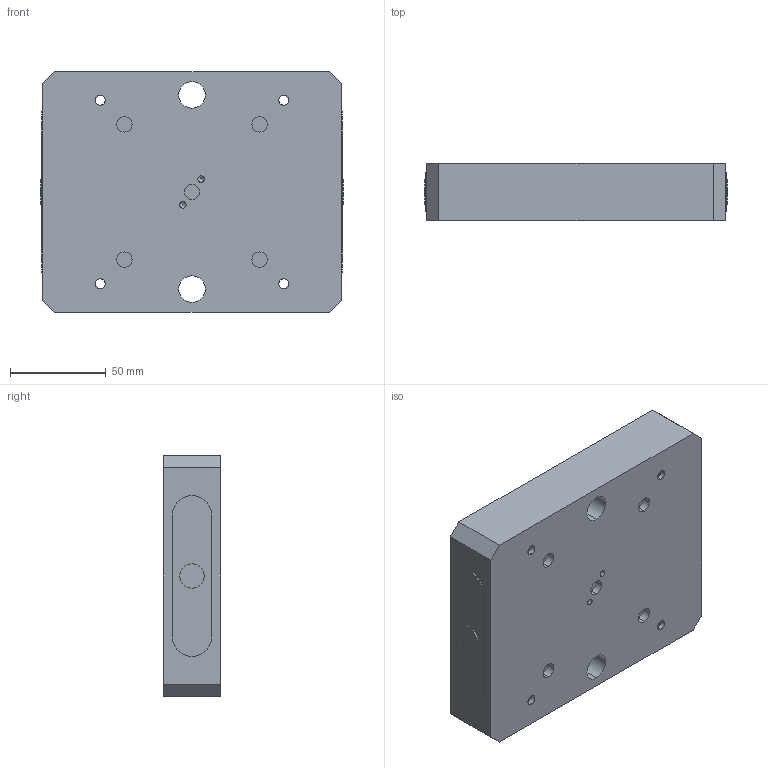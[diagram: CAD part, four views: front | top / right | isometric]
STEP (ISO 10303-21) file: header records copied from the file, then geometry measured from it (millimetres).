
FILE_DESCRIPTION (( 'STEP AP214' ), '1' );
FILE_NAME ('D_RL96A-56.STEP', '2020-03-11T15:59:10', ( '' ), ( '' ), 'SwSTEP 2.0', 'SolidWorks 2018', '' );
FILE_SCHEMA (( 'AUTOMOTIVE_DESIGN' ));
Length unit declared in the file: millimetre
Products named in the file (1): D_RL96A-56
Bounding box: 158 x 30 x 126 mm (x, y, z)
Volume: 433691.5 mm3; surface area: 94072.1 mm2
Topology: 1 solids, 1 shells, 193 faces, 468 edges, 306 vertices
Faces by surface type: cylinder 118, plane 67, cone 8
Entity records: 6800 total; most frequent: CARTESIAN_POINT 1456, DIRECTION 1056, ORIENTED_EDGE 920, EDGE_CURVE 460, AXIS2_PLACEMENT_3D 432, VERTEX_POINT 306, EDGE_LOOP 250, CIRCLE 238
